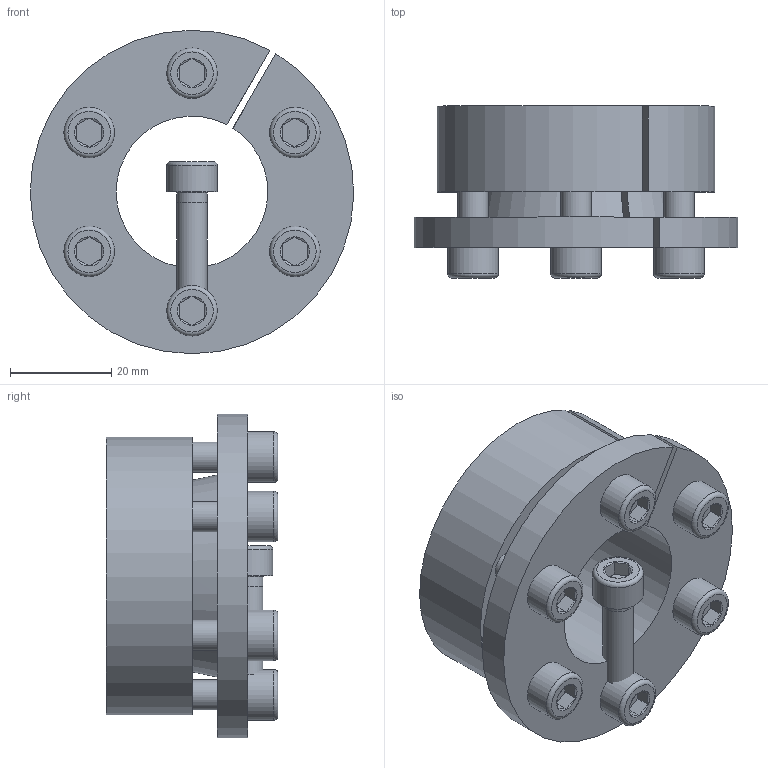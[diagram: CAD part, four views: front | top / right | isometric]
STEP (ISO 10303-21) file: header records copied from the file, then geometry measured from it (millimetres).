
FILE_DESCRIPTION( ( 'Unknown' ), '1' );
FILE_NAME( 'C:/Dokumente und Einstellungen/Sven/Desktop/homepage/cad - homepage/KBS16/KBS 16 - 30 x 55.stp', 'Unknown', ( 'Unknown' ), ( 'Unknown' ), 'XStep 1.0', 'Unknown', ' ' );
FILE_SCHEMA( ( 'automotive_design' ) );
Length unit declared in the file: millimetre
Products named in the file (3): Assem1; KBS 16 - 30 x 55; ISO EN DIN 4762 M6x20
Bounding box: 64 x 34 x 63.99 mm (x, y, z)
Volume: 89295.3 mm3; surface area: 40038 mm2
Topology: 9 solids, 9 shells, 223 faces, 445 edges, 268 vertices
Faces by surface type: plane 98, cylinder 58, cone 53, torus 14
Full cylindrical faces by diameter (mm): 5 x7, 6 x38, 10 x7
Entity records: 1626 total; most frequent: CARTESIAN_POINT 271, DIRECTION 244, ORIENTED_EDGE 178, AXIS2_PLACEMENT_3D 108, EDGE_LOOP 96, EDGE_CURVE 89, FACE_OUTER_BOUND 67, VERTEX_POINT 67
